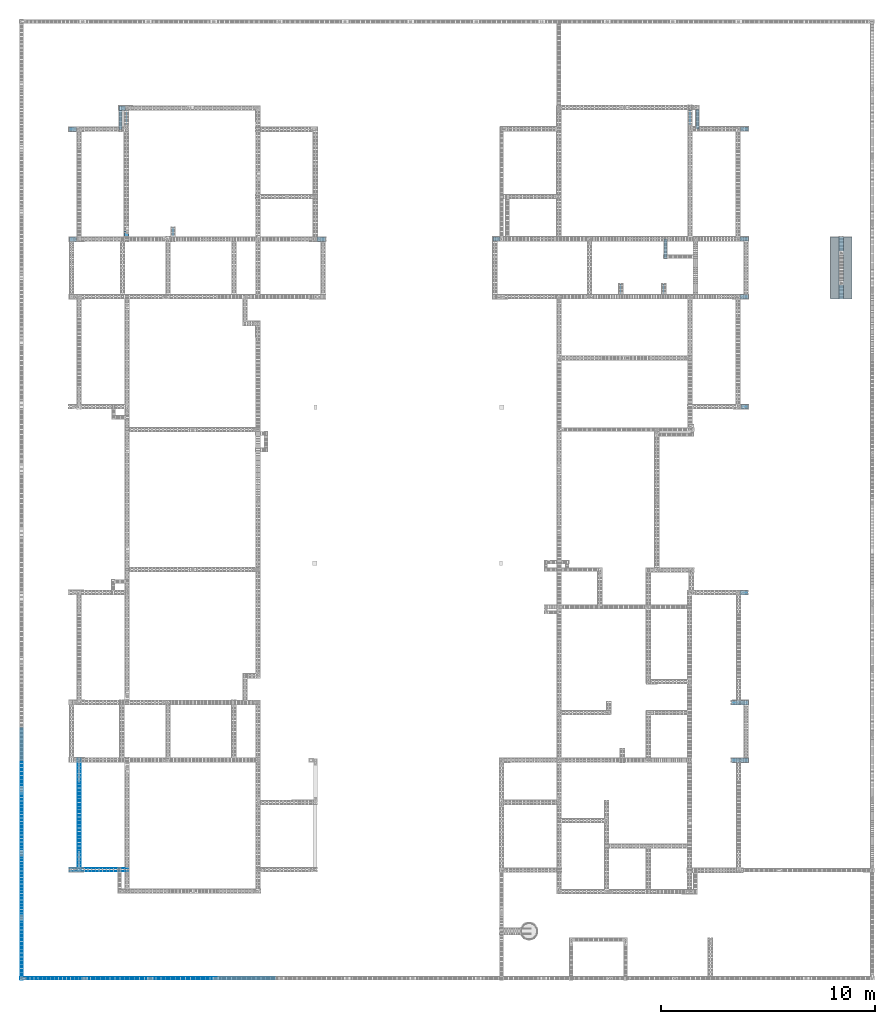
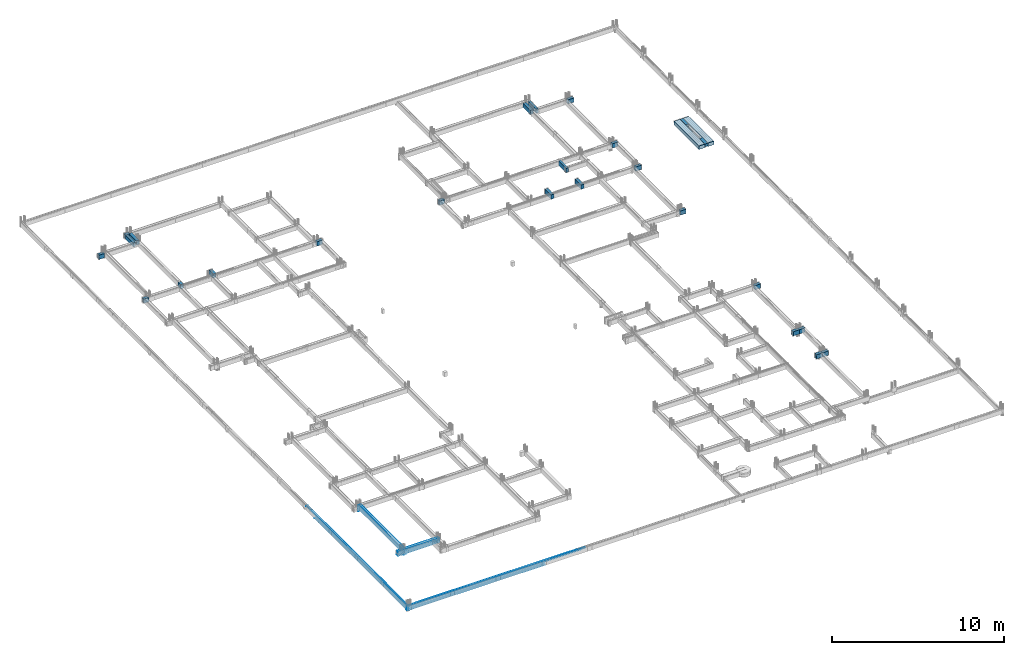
# One storey, part 6 of 150: 25 beams, 17 reinforcing bars, 2 slabs.
"""IFC4 building model written with IfcOpenShell, lengths in centimetres."""

from ifc_helpers import new_model, entity, si_unit, derived_unit, frame, origin_with_axes, origin_2d_with_axis, place, context, project, spatial, polyline, rectangle, outline, extrude, material, element, save


model = new_model("IFC4")

# Units and contexts
model_context = context("Model", 3, precision=1e-05, world=origin_with_axes(), identifier="Body")
ifc_project = project(units=[si_unit("LENGTHUNIT", "METRE", prefix="CENTI"), si_unit("VOLUMEUNIT", "CUBIC_METRE"), si_unit("AREAUNIT", "SQUARE_METRE"), si_unit("POWERUNIT", "WATT"), si_unit("LUMINOUSFLUXUNIT", "LUMEN"), si_unit("ELECTRICCURRENTUNIT", "AMPERE"), si_unit("PRESSUREUNIT", "PASCAL", prefix="KILO"), si_unit("MASSUNIT", "GRAM", prefix="KILO"), si_unit("PLANEANGLEUNIT", "RADIAN"), derived_unit("VOLUMETRICFLOWRATEUNIT", [(si_unit("LENGTHUNIT", "METRE"), 3), (si_unit("TIMEUNIT", "SECOND"), -1)])], contexts=[model_context])

# Site, building, storey
site_placement = place(None, frame((-4000.0, 0.0, 0.0), z_axis=(0.0, 0.0, 1.0), x_axis=(1.0, 0.0, 0.0)))
site = spatial("IfcSite", under=ifc_project, at=site_placement, Name="PADRÃO")
building_placement = place(site_placement, frame((0.0, 0.0, -14.0)))
building = spatial("IfcBuilding", under=site, at=building_placement, Name="CRECHE PRÉ-ESCOLA TIPO 2")
placement = place(building_placement, origin_with_axes())
storey_placement = place(placement, frame((0.0, 0.0, 30.0), z_axis=(0.0, 0.0, 1.0), x_axis=(1.0, 0.0, 0.0)))
storey = spatial("IfcBuildingStorey", under=building, at=storey_placement, Name="VIGA BALDRAME", CompositionType="ELEMENT", Elevation=16.0)

# Beams
ifc_material = material(Name="Concreto")
beam_1_placement = place(storey_placement, frame((479.835, 4082.49, 0.0), z_axis=(0.0, 0.0, 1.0), x_axis=(1.0, 0.0, 0.0)))
element("IfcBeam", 1, at=beam_1_placement, inside=storey, material=ifc_material, Name="V102", context=model_context, shape_type="SolidModel", body=[
    extrude(rectangle(XDim=20.0, YDim=30.0, at=origin_2d_with_axis()), frame((-14.835, 0.0, -15.0), z_axis=(1.0, 0.0, 0.0), x_axis=(0.0, 1.0, 0.0)), (0.0, 0.0, 1.0), 29.67),
])
beam_2_placement = place(storey_placement, frame((249.015, 3983.75, 0.0), z_axis=(0.0, 0.0, 1.0), x_axis=(1.0, 0.0, 0.0)))
element("IfcBeam", 2, at=beam_2_placement, inside=storey, material=ifc_material, Name="V104", context=model_context, shape_type="SolidModel", body=[
    extrude(rectangle(XDim=20.0, YDim=30.0, at=origin_2d_with_axis()), frame((-17.985, 0.0, -15.0), z_axis=(1.0, 0.0, 0.0), x_axis=(0.0, 1.0, 0.0)), (0.0, 0.0, 1.0), 35.97),
])
beam_3_placement = place(storey_placement, frame((3392.99, 3985.01, 0.0), z_axis=(0.0, 0.0, 1.0), x_axis=(1.0, 0.0, 0.0)))
element("IfcBeam", 3, at=beam_3_placement, inside=storey, material=ifc_material, Name="V107", context=model_context, shape_type="SolidModel", body=[
    extrude(rectangle(XDim=20.0, YDim=30.0, at=origin_2d_with_axis()), frame((-17.99, 0.0, -15.0), z_axis=(1.0, 0.0, 0.0), x_axis=(0.0, 1.0, 0.0)), (0.0, 0.0, 1.0), 35.98),
])
beam_4_placement = place(storey_placement, frame((250.375, 3469.0, 0.0), z_axis=(0.0, 0.0, 1.0), x_axis=(1.0, 0.0, 0.0)))
element("IfcBeam", 4, at=beam_4_placement, inside=storey, material=ifc_material, Name="V110", context=model_context, shape_type="SolidModel", body=[
    extrude(rectangle(XDim=20.0, YDim=30.0, at=origin_2d_with_axis()), frame((-16.635, 0.0, -15.0), z_axis=(1.0, 0.0, 0.0), x_axis=(0.0, 1.0, 0.0)), (0.0, 0.0, 1.0), 33.27),
])
beam_5_placement = place(storey_placement, frame((1411.935, 3469.0, 0.0), z_axis=(0.0, 0.0, 1.0), x_axis=(1.0, 0.0, 0.0)))
element("IfcBeam", 5, at=beam_5_placement, inside=storey, material=ifc_material, Name="V110", context=model_context, shape_type="SolidModel", body=[
    extrude(rectangle(XDim=20.0, YDim=30.0, at=origin_2d_with_axis()), frame((-19.095, 0.0, -15.0), z_axis=(1.0, 0.0, 0.0), x_axis=(0.0, 1.0, 0.0)), (0.0, 0.0, 1.0), 38.19),
])
beam_6_placement = place(storey_placement, frame((3391.74, 3470.01, 0.0), z_axis=(0.0, 0.0, 1.0), x_axis=(1.0, 0.0, 0.0)))
element("IfcBeam", 6, at=beam_6_placement, inside=storey, material=ifc_material, Name="V111", context=model_context, shape_type="SolidModel", body=[
    extrude(rectangle(XDim=20.0, YDim=30.0, at=origin_2d_with_axis()), frame((-19.24, 0.0, -15.0), z_axis=(1.0, 0.0, 0.0), x_axis=(0.0, 1.0, 0.0)), (0.0, 0.0, 1.0), 38.48),
])
beam_7_placement = place(storey_placement, frame((2231.645, 3470.02, 0.0), z_axis=(0.0, 0.0, 1.0), x_axis=(1.0, 0.0, 0.0)))
element("IfcBeam", 7, at=beam_7_placement, inside=storey, material=ifc_material, Name="V111", context=model_context, shape_type="SolidModel", body=[
    extrude(rectangle(XDim=20.0, YDim=30.0, at=origin_2d_with_axis()), frame((-17.115, 0.0, -15.0), z_axis=(1.0, 0.0, 0.0), x_axis=(0.0, 1.0, 0.0)), (0.0, 0.0, 1.0), 34.23),
])
beam_8_placement = place(storey_placement, frame((3391.74, 3200.01, 0.0), z_axis=(0.0, 0.0, 1.0), x_axis=(1.0, 0.0, 0.0)))
element("IfcBeam", 8, at=beam_8_placement, inside=storey, material=ifc_material, Name="V114", context=model_context, shape_type="SolidModel", body=[
    extrude(rectangle(XDim=20.0, YDim=30.0, at=origin_2d_with_axis()), frame((-19.24, 0.0, -15.0), z_axis=(1.0, 0.0, 0.0), x_axis=(0.0, 1.0, 0.0)), (0.0, 0.0, 1.0), 38.48),
])
beam_9_placement = place(storey_placement, frame((3393.5, 2685.02, 0.0), z_axis=(0.0, 0.0, 1.0), x_axis=(1.0, 0.0, 0.0)))
element("IfcBeam", 9, at=beam_9_placement, inside=storey, material=ifc_material, Name="V118", context=model_context, shape_type="SolidModel", body=[
    extrude(rectangle(XDim=20.0, YDim=30.0, at=origin_2d_with_axis()), frame((-17.5, 0.0, -15.0), z_axis=(1.0, 0.0, 0.0), x_axis=(0.0, 1.0, 0.0)), (0.0, 0.0, 1.0), 35.0),
])
beam_10_placement = place(storey_placement, frame((3391.0, 1815.02, 0.0), z_axis=(0.0, 0.0, 1.0), x_axis=(1.0, 0.0, 0.0)))
element("IfcBeam", 10, at=beam_10_placement, inside=storey, material=ifc_material, Name="V131", context=model_context, shape_type="SolidModel", body=[
    extrude(rectangle(XDim=20.0, YDim=30.0, at=origin_2d_with_axis()), frame((-18.5, 0.0, -15.0), z_axis=(1.0, 0.0, 0.0), x_axis=(0.0, 1.0, 0.0)), (0.0, 0.0, 1.0), 37.0),
])
beam_11_placement = place(storey_placement, frame((3351.75, 1300.09, 0.0), z_axis=(0.0, 0.0, 1.0), x_axis=(1.0, 0.0, 0.0)))
element("IfcBeam", 11, at=beam_11_placement, inside=storey, material=ifc_material, Name="V139", context=model_context, shape_type="SolidModel", body=[
    extrude(rectangle(XDim=20.0, YDim=30.0, at=origin_2d_with_axis()), frame((-20.75, 0.0, -15.0), z_axis=(1.0, 0.0, 0.0), x_axis=(0.0, 1.0, 0.0)), (0.0, 0.0, 1.0), 41.5),
])
beam_12_placement = place(storey_placement, frame((3391.74, 1300.09, 0.0), z_axis=(0.0, 0.0, 1.0), x_axis=(1.0, 0.0, 0.0)))
element("IfcBeam", 12, at=beam_12_placement, inside=storey, material=ifc_material, Name="V139", context=model_context, shape_type="SolidModel", body=[
    extrude(rectangle(XDim=20.0, YDim=30.0, at=origin_2d_with_axis()), frame((-19.24, 0.0, -15.0), z_axis=(1.0, 0.0, 0.0), x_axis=(0.0, 1.0, 0.0)), (0.0, 0.0, 1.0), 38.48),
])
beam_13_placement = place(storey_placement, frame((3351.755, 1030.08, 0.0), z_axis=(0.0, 0.0, 1.0), x_axis=(1.0, 0.0, 0.0)))
element("IfcBeam", 13, at=beam_13_placement, inside=storey, material=ifc_material, Name="V144", context=model_context, shape_type="SolidModel", body=[
    extrude(rectangle(XDim=20.0, YDim=30.0, at=origin_2d_with_axis()), frame((-20.745, 0.0, -15.0), z_axis=(1.0, 0.0, 0.0), x_axis=(0.0, 1.0, 0.0)), (0.0, 0.0, 1.0), 41.49),
])
beam_14_placement = place(storey_placement, frame((3391.74, 1030.08, 0.0), z_axis=(0.0, 0.0, 1.0), x_axis=(1.0, 0.0, 0.0)))
element("IfcBeam", 14, at=beam_14_placement, inside=storey, material=ifc_material, Name="V144", context=model_context, shape_type="SolidModel", body=[
    extrude(rectangle(XDim=20.0, YDim=30.0, at=origin_2d_with_axis()), frame((-19.24, 0.0, -15.0), z_axis=(1.0, 0.0, 0.0), x_axis=(0.0, 1.0, 0.0)), (0.0, 0.0, 1.0), 38.48),
])
beam_15_placement = place(storey_placement, frame((500.19, 3493.75, 0.0), z_axis=(0.0, 0.0, 1.0), x_axis=(1.0, 0.0, 0.0)))
element("IfcBeam", 15, at=beam_15_placement, inside=storey, material=ifc_material, Name="V173", context=model_context, shape_type="SolidModel", body=[
    extrude(rectangle(XDim=20.0, YDim=30.0, at=origin_2d_with_axis()), frame((0.0, -14.75, -15.0), z_axis=(0.0, 1.0, 0.0), x_axis=(-1.0, 0.0, 0.0)), (0.0, 0.0, 1.0), 29.5),
])
beam_16_placement = place(storey_placement, frame((500.19, 4034.75, 0.0), z_axis=(0.0, 0.0, 1.0), x_axis=(1.0, 0.0, 0.0)))
element("IfcBeam", 16, at=beam_16_placement, inside=storey, material=ifc_material, Name="V173", context=model_context, shape_type="SolidModel", body=[
    extrude(rectangle(XDim=20.0, YDim=30.0, at=origin_2d_with_axis()), frame((0.0, -43.25, -15.0), z_axis=(0.0, 1.0, 0.0), x_axis=(-1.0, 0.0, 0.0)), (0.0, 0.0, 1.0), 86.5),
])
beam_17_placement = place(storey_placement, frame((472.5, 4028.12, 0.0), z_axis=(0.0, 0.0, 1.0), x_axis=(1.0, 0.0, 0.0)))
element("IfcBeam", 17, at=beam_17_placement, inside=storey, material=ifc_material, Name="V174", context=model_context, shape_type="SolidModel", body=[
    extrude(rectangle(XDim=15.0, YDim=30.0, at=origin_2d_with_axis()), frame((0.0, -44.37, -15.0), z_axis=(0.0, 1.0, 0.0), x_axis=(-1.0, 0.0, 0.0)), (0.0, 0.0, 1.0), 88.74),
])
beam_18_placement = place(storey_placement, frame((718.5, 3502.0, 0.0), z_axis=(0.0, 0.0, 1.0), x_axis=(1.0, 0.0, 0.0)))
element("IfcBeam", 18, at=beam_18_placement, inside=storey, material=ifc_material, Name="V177", context=model_context, shape_type="SolidModel", body=[
    extrude(rectangle(XDim=20.0, YDim=30.0, at=origin_2d_with_axis()), frame((0.0, -23.0, -15.0), z_axis=(0.0, 1.0, 0.0), x_axis=(-1.0, 0.0, 0.0)), (0.0, 0.0, 1.0), 46.0),
])
for number, where, z_axis, x_axis, name in (
    (19, (2814.49, 3225.02, 0.0), (0.0, 0.0, 1.0), (1.0, 0.0, 0.0), "V208"),
    (20, (3016.0, 3225.02, 0.0), (0.0, 0.0, 1.0), (1.0, 0.0, 0.0), "V213"),
):
    element("IfcBeam", number, at=place(storey_placement, frame(where, z_axis=z_axis, x_axis=x_axis)), inside=storey, material=ifc_material, Name=name, context=model_context, shape_type="SolidModel", body=[
        extrude(rectangle(XDim=20.0, YDim=30.0, at=origin_2d_with_axis()), frame((0.0, -35.0, -15.0), z_axis=(0.0, 1.0, 0.0), x_axis=(1.0, 0.0, 0.0)), (0.0, 0.0, 1.0), 70.0),
    ])
beam_19_placement = place(storey_placement, frame((3023.5, 3424.52, 0.0), z_axis=(0.0, 0.0, 1.0), x_axis=(1.0, 0.0, 0.0)))
element("IfcBeam", 21, at=beam_19_placement, inside=storey, material=ifc_material, Name="V214", context=model_context, shape_type="SolidModel", body=[
    extrude(rectangle(XDim=15.0, YDim=30.0, at=origin_2d_with_axis()), frame((0.0, -45.5, -15.0), z_axis=(0.0, 1.0, 0.0), x_axis=(1.0, 0.0, 0.0)), (0.0, 0.0, 1.0), 91.0),
])
beam_20_placement = place(storey_placement, frame((3139.43, 4033.265, 0.0), z_axis=(0.0, 0.0, 1.0), x_axis=(1.0, 0.0, 0.0)))
element("IfcBeam", 22, at=beam_20_placement, inside=storey, material=ifc_material, Name="V221", context=model_context, shape_type="SolidModel", body=[
    extrude(rectangle(XDim=20.0, YDim=30.0, at=origin_2d_with_axis()), frame((0.0, -41.755, -15.0), z_axis=(0.0, 1.0, 0.0), x_axis=(1.0, 0.0, 0.0)), (0.0, 0.0, 1.0), 83.51),
])
beam_21_placement = place(storey_placement, frame((3172.5, 4031.015, 0.0), z_axis=(0.0, 0.0, 1.0), x_axis=(1.0, 0.0, 0.0)))
element("IfcBeam", 23, at=beam_21_placement, inside=storey, material=ifc_material, Name="V222", context=model_context, shape_type="SolidModel", body=[
    extrude(rectangle(XDim=15.0, YDim=30.0, at=origin_2d_with_axis()), frame((0.0, -46.005, -15.0), z_axis=(0.0, 1.0, 0.0), x_axis=(1.0, 0.0, 0.0)), (0.0, 0.0, 1.0), 92.01),
])
for number, where, z_axis, x_axis, name in (
    (24, (3845.84, 3222.52, 0.0), (0.0, 0.0, 1.0), (1.0, 0.0, 0.0), "VM1"),
    (25, (3845.84, 3447.52, 0.0), (0.0, 0.0, 1.0), (1.0, 0.0, 0.0), "VM1"),
):
    element("IfcBeam", number, at=place(storey_placement, frame(where, z_axis=z_axis, x_axis=x_axis)), inside=storey, material=ifc_material, Name=name, context=model_context, shape_type="SolidModel", body=[
        extrude(rectangle(XDim=20.0, YDim=20.0, at=origin_2d_with_axis()), frame((0.0, -32.5, -10.0), z_axis=(0.0, 1.0, 0.0), x_axis=(1.0, 0.0, 0.0)), (0.0, 0.0, 1.0), 65.0),
    ])

# Slabs
for number, where, z_axis, x_axis, name in (
    (26, (3815.8405, 3335.0195, 0.0), (0.0, 0.0, 1.0), (1.0, 0.0, 0.0), "LM1"),
    (27, (3875.8405, 3335.0195, 0.0), (0.0, 0.0, 1.0), (1.0, 0.0, 0.0), "LM2"),
):
    element("IfcSlab", number, at=place(storey_placement, frame(where, z_axis=z_axis, x_axis=x_axis)), inside=storey, material=ifc_material, Name=name, PredefinedType="FLOOR", context=model_context, shape_type="SolidModel", body=[
        extrude(outline(polyline([(20.0, 144.999), (-19.999, 144.999), (-19.999, -145.0), (20.0, -145.0), (20.0, 144.999), (20.0, 144.999)])), frame((-0.0005, 0.0005, -25.0), z_axis=(0.0, 0.0, 1.0), x_axis=(1.0, 0.0, 0.0)), (0.0, 0.0, 1.0), 25.0),
    ])

# Reinforcing bars
for number, where, z_axis, x_axis, name in (
    (28, (371.535, 524.6, -26.7), (0.0, 0.0, 1.0), (1.0, 0.0, 0.0), "V149 - Longitudinal inferior"),
    (29, (371.535, 510.4, -26.7), (0.0, 0.0, 1.0), (1.0, 0.0, 0.0), "V149 - Longitudinal inferior"),
):
    element("IfcReinforcingBar", number, at=place(storey_placement, frame(where, z_axis=z_axis, x_axis=x_axis)), inside=storey, Name=name, BarLength=0.0, CrossSectionArea=5.0265482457e-05, NominalDiameter=0.8, PredefinedType="MAIN", context=model_context, shape_type="AdvancedSweptSolid", body=[
        entity("IfcSweptDiskSolid", entity("IfcCompositeCurve", [entity("IfcCompositeCurveSegment", "CONTINUOUS", True, entity("IfcPolyline", [entity("IfcCartesianPoint", [-137.035, 0.0, -0.4]), entity("IfcCartesianPoint", [137.035, 0.0, -0.4])]))], False), 0.4),
    ])
for number, where, z_axis, x_axis, name in (
    (30, (371.535, 524.5, -2.49531217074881), (0.0, 0.0, 1.0), (1.0, 0.0, 0.0), "V149 - Longitudinal superior"),
    (31, (371.535, 510.5, -2.49531217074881), (0.0, 0.0, 1.0), (1.0, 0.0, 0.0), "V149 - Longitudinal superior"),
):
    element("IfcReinforcingBar", number, at=place(storey_placement, frame(where, z_axis=z_axis, x_axis=x_axis)), inside=storey, Name=name, BarLength=0.0, CrossSectionArea=7.853981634e-05, NominalDiameter=1.0, PredefinedType="MAIN", context=model_context, shape_type="AdvancedSweptSolid", body=[
        entity("IfcSweptDiskSolid", entity("IfcCompositeCurve", [entity("IfcCompositeCurveSegment", "CONTINUOUS", True, entity("IfcPolyline", [entity("IfcCartesianPoint", [-136.535, 0.0, -26.5046878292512]), entity("IfcCartesianPoint", [-136.535, 0.0, -0.504687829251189])])), entity("IfcCompositeCurveSegment", "CONTINUOUS", True, entity("IfcPolyline", [entity("IfcCartesianPoint", [-136.535, 0.0, -0.504687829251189]), entity("IfcCartesianPoint", [136.535, 0.0, -0.504687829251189])])), entity("IfcCompositeCurveSegment", "CONTINUOUS", True, entity("IfcPolyline", [entity("IfcCartesianPoint", [136.535, 0.0, -0.504687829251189]), entity("IfcCartesianPoint", [136.535, 0.0, -19.6170129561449])]))], False), 0.5),
    ])
for number, where, z_axis, x_axis, name in (
    (32, (463.5, 14.1, -26.7), (0.0, 0.0, 1.0), (1.0, 0.0, 0.0), "V158 - Longitudinal inferior"),
    (33, (463.5, 4.9, -26.7), (0.0, 0.0, 1.0), (1.0, 0.0, 0.0), "V158 - Longitudinal inferior"),
):
    element("IfcReinforcingBar", number, at=place(storey_placement, frame(where, z_axis=z_axis, x_axis=x_axis)), inside=storey, Name=name, BarLength=0.0, CrossSectionArea=5.0265482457e-05, NominalDiameter=0.8, PredefinedType="MAIN", context=model_context, shape_type="AdvancedSweptSolid", body=[
        entity("IfcSweptDiskSolid", entity("IfcCompositeCurve", [entity("IfcCompositeCurveSegment", "CONTINUOUS", True, entity("IfcPolyline", [entity("IfcCartesianPoint", [-460.0, 0.0, -0.4]), entity("IfcCartesianPoint", [460.0, 0.0, -0.4])]))], False), 0.4),
    ])
for number, where, z_axis, x_axis, name in (
    (34, (598.4981248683, 14.1, -2.49624973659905), (0.0, 0.0, 1.0), (1.0, 0.0, 0.0), "V158 - Longitudinal superior"),
    (35, (598.4981248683, 4.9, -2.49624973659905), (0.0, 0.0, 1.0), (1.0, 0.0, 0.0), "V158 - Longitudinal superior"),
):
    element("IfcReinforcingBar", number, at=place(storey_placement, frame(where, z_axis=z_axis, x_axis=x_axis)), inside=storey, Name=name, BarLength=0.0, CrossSectionArea=5.0265482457e-05, NominalDiameter=0.8, PredefinedType="MAIN", context=model_context, shape_type="AdvancedSweptSolid", body=[
        entity("IfcSweptDiskSolid", entity("IfcCompositeCurve", [entity("IfcCompositeCurveSegment", "CONTINUOUS", True, entity("IfcPolyline", [entity("IfcCartesianPoint", [-594.5981248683, 0.0, -10.403750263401]), entity("IfcCartesianPoint", [-594.5981248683, 0.0, -0.403750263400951])])), entity("IfcCompositeCurveSegment", "CONTINUOUS", True, entity("IfcPolyline", [entity("IfcCartesianPoint", [-594.5981248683, 0.0, -0.403750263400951]), entity("IfcCartesianPoint", [595.0018751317, 0.0, -0.403750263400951])]))], False), 0.4),
    ])
for number, where, z_axis, x_axis, name in (
    (36, (4.4, 541.7481248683, -17.1), (0.0, 0.0, 1.0), (1.0, 0.0, 0.0), "V159 - Longitudinal inferior"),
    (37, (13.6, 541.7481248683, -17.1), (0.0, 0.0, 1.0), (1.0, 0.0, 0.0), "V159 - Longitudinal inferior"),
):
    element("IfcReinforcingBar", number, at=place(storey_placement, frame(where, z_axis=z_axis, x_axis=x_axis)), inside=storey, Name=name, BarLength=0.0, CrossSectionArea=5.0265482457e-05, NominalDiameter=0.8, PredefinedType="MAIN", context=model_context, shape_type="AdvancedSweptSolid", body=[
        entity("IfcSweptDiskSolid", entity("IfcCompositeCurve", [entity("IfcCompositeCurveSegment", "CONTINUOUS", True, entity("IfcPolyline", [entity("IfcCartesianPoint", [0.0, -537.3481248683, 0.0]), entity("IfcCartesianPoint", [0.0, -537.3481248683, -10.0])])), entity("IfcCompositeCurveSegment", "CONTINUOUS", True, entity("IfcPolyline", [entity("IfcCartesianPoint", [0.0, -537.3481248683, -10.0]), entity("IfcCartesianPoint", [0.0, 537.7518751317, -10.0])]))], False), 0.4),
    ])
for number, where, z_axis, x_axis, name in (
    (38, (13.6, 591.328331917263, -2.49624973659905), (0.0, 0.0, 1.0), (1.0, 0.0, 0.0), "V159 - Longitudinal superior"),
    (39, (4.4, 591.328331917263, -2.49624973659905), (0.0, 0.0, 1.0), (1.0, 0.0, 0.0), "V159 - Longitudinal superior"),
):
    element("IfcReinforcingBar", number, at=place(storey_placement, frame(where, z_axis=z_axis, x_axis=x_axis)), inside=storey, Name=name, BarLength=0.0, CrossSectionArea=5.0265482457e-05, NominalDiameter=0.8, PredefinedType="MAIN", context=model_context, shape_type="AdvancedSweptSolid", body=[
        entity("IfcSweptDiskSolid", entity("IfcCompositeCurve", [entity("IfcCompositeCurveSegment", "CONTINUOUS", True, entity("IfcPolyline", [entity("IfcCartesianPoint", [0.0, -586.928331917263, -25.7433361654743]), entity("IfcCartesianPoint", [0.0, -586.928331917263, -0.403750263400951])])), entity("IfcCompositeCurveSegment", "CONTINUOUS", True, entity("IfcPolyline", [entity("IfcCartesianPoint", [0.0, -586.928331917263, -0.403750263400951]), entity("IfcCartesianPoint", [0.0, 587.332082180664, -0.403750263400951])]))], False), 0.4),
    ])
reinforcing_bar_placement = place(storey_placement, frame((279.0, 765.25, -26.25), z_axis=(0.0, 0.0, 1.0), x_axis=(1.0, 0.0, 0.0)))
element("IfcReinforcingBar", 40, at=reinforcing_bar_placement, inside=storey, Name="V160 - Longitudinal inferior", BarLength=0.0, CrossSectionArea=0.000122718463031, NominalDiameter=1.25, PredefinedType="MAIN", context=model_context, shape_type="AdvancedSweptSolid", body=[
    entity("IfcSweptDiskSolid", entity("IfcCompositeCurve", [entity("IfcCompositeCurveSegment", "CONTINUOUS", True, entity("IfcPolyline", [entity("IfcCartesianPoint", [0.0, -155.25, -0.625]), entity("IfcCartesianPoint", [0.0, 155.25, -0.625])]))], False), 0.625),
])
for number, where, z_axis, x_axis, name in (
    (41, (272.125, 773.5, -11.875), (0.0, 0.0, 1.0), (1.0, 0.0, 0.0), "V160 - Longitudinal inferior"),
    (42, (285.875, 773.5, -11.875), (0.0, 0.0, 1.0), (1.0, 0.0, 0.0), "V160 - Longitudinal inferior"),
):
    element("IfcReinforcingBar", number, at=place(storey_placement, frame(where, z_axis=z_axis, x_axis=x_axis)), inside=storey, Name=name, BarLength=0.0, CrossSectionArea=0.000122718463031, NominalDiameter=1.25, PredefinedType="MAIN", context=model_context, shape_type="AdvancedSweptSolid", body=[
        entity("IfcSweptDiskSolid", entity("IfcCompositeCurve", [entity("IfcCompositeCurveSegment", "CONTINUOUS", True, entity("IfcPolyline", [entity("IfcCartesianPoint", [0.0, -262.875, 0.0]), entity("IfcCartesianPoint", [0.0, -262.875, -15.0])])), entity("IfcCompositeCurveSegment", "CONTINUOUS", True, entity("IfcPolyline", [entity("IfcCartesianPoint", [0.0, -262.875, -15.0]), entity("IfcCartesianPoint", [0.0, 262.875, -15.0])])), entity("IfcCompositeCurveSegment", "CONTINUOUS", True, entity("IfcPolyline", [entity("IfcCartesianPoint", [0.0, 262.875, -15.0]), entity("IfcCartesianPoint", [0.0, 262.875, 0.0])]))], False), 0.625),
    ])
for number, where, z_axis, x_axis, name in (
    (43, (272.125, 773.5, -2.49414021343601), (0.0, 0.0, 1.0), (1.0, 0.0, 0.0), "V160 - Longitudinal superior"),
    (44, (285.875, 773.5, -2.49414021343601), (0.0, 0.0, 1.0), (1.0, 0.0, 0.0), "V160 - Longitudinal superior"),
):
    element("IfcReinforcingBar", number, at=place(storey_placement, frame(where, z_axis=z_axis, x_axis=x_axis)), inside=storey, Name=name, BarLength=0.0, CrossSectionArea=0.000122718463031, NominalDiameter=1.25, PredefinedType="MAIN", context=model_context, shape_type="AdvancedSweptSolid", body=[
        entity("IfcSweptDiskSolid", entity("IfcCompositeCurve", [entity("IfcCompositeCurveSegment", "CONTINUOUS", True, entity("IfcPolyline", [entity("IfcCartesianPoint", [0.0, -262.875, -31.5494446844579]), entity("IfcCartesianPoint", [0.0, -262.875, -0.630859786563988])])), entity("IfcCompositeCurveSegment", "CONTINUOUS", True, entity("IfcPolyline", [entity("IfcCartesianPoint", [0.0, -262.875, -0.630859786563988]), entity("IfcCartesianPoint", [0.0, 262.875, -0.630859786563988])])), entity("IfcCompositeCurveSegment", "CONTINUOUS", True, entity("IfcPolyline", [entity("IfcCartesianPoint", [0.0, 262.875, -0.630859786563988]), entity("IfcCartesianPoint", [0.0, 262.875, -42.3274849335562])]))], False), 0.625),
    ])

save(model, "model.ifc")
